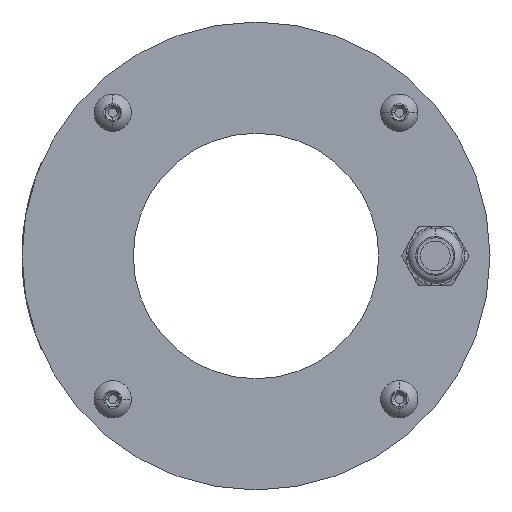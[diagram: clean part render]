
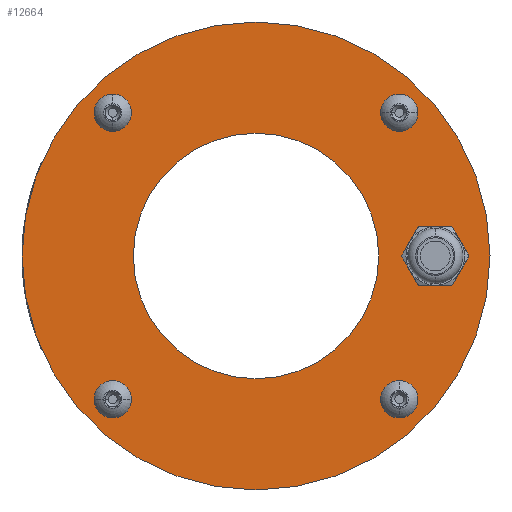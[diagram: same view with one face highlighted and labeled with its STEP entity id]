
A CAD part, front view. The second image highlights one B-rep face of the part: STEP entity #12664.
In plain terms, the highlighted planar face has unit normal (0, -1, 0).
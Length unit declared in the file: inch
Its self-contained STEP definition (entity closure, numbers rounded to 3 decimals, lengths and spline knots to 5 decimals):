
#108 = CIRCLE ( 'NONE', #13550, 1.87675 ) ;
#329 = EDGE_CURVE ( 'NONE', #3134, #19300, #6636, .T. ) ;
#556 = DIRECTION ( 'NONE',  ( 0., -1., 0. ) ) ;
#799 = CARTESIAN_POINT ( 'NONE',  ( 0., 0., 0. ) ) ;
#1069 = AXIS2_PLACEMENT_3D ( 'NONE', #799, #8281, #28210 ) ;
#1169 = FACE_BOUND ( 'NONE', #5373, .T. ) ;
#1415 = CARTESIAN_POINT ( 'NONE',  ( -1.14905, 0., 1.08409 ) ) ;
#1618 = DIRECTION ( 'NONE',  ( 0., -1., 0. ) ) ;
#1981 = AXIS2_PLACEMENT_3D ( 'NONE', #31475, #22605, #15710 ) ;
#2001 = DIRECTION ( 'NONE',  ( 0., -1., 0. ) ) ;
#2303 = DIRECTION ( 'NONE',  ( 0., 0., -1. ) ) ;
#2380 = VERTEX_POINT ( 'NONE', #14698 ) ;
#2586 = CARTESIAN_POINT ( 'NONE',  ( -1.14905, 0., -1.21401 ) ) ;
#2764 = AXIS2_PLACEMENT_3D ( 'NONE', #32721, #32285, #2303 ) ;
#2888 = DIRECTION ( 'NONE',  ( 0., 0., -1. ) ) ;
#3134 = VERTEX_POINT ( 'NONE', #1415 ) ;
#3276 = CARTESIAN_POINT ( 'NONE',  ( -1.14905, 0., -1.14905 ) ) ;
#3421 = DIRECTION ( 'NONE',  ( 0., 0., -1. ) ) ;
#3465 = ORIENTED_EDGE ( 'NONE', *, *, #18035, .F. ) ;
#4088 = EDGE_LOOP ( 'NONE', ( #30442, #11468 ) ) ;
#4548 = CIRCLE ( 'NONE', #21941, 0.06496 ) ;
#4757 = CARTESIAN_POINT ( 'NONE',  ( 0., 0., -0.98425 ) ) ;
#4899 = EDGE_CURVE ( 'NONE', #2380, #26286, #4548, .T. ) ;
#5061 = CIRCLE ( 'NONE', #24864, 0.98425 ) ;
#5373 = EDGE_LOOP ( 'NONE', ( #26405, #17789 ) ) ;
#5378 = EDGE_CURVE ( 'NONE', #17931, #29176, #12347, .T. ) ;
#5647 = CARTESIAN_POINT ( 'NONE',  ( -1.14905, 0., 1.14905 ) ) ;
#5793 = CARTESIAN_POINT ( 'NONE',  ( -1.14905, 0., -1.14905 ) ) ;
#5912 = VERTEX_POINT ( 'NONE', #8400 ) ;
#5990 = CARTESIAN_POINT ( 'NONE',  ( 1.14905, 0., 1.21401 ) ) ;
#6261 = FACE_OUTER_BOUND ( 'NONE', #30600, .T. ) ;
#6471 = EDGE_CURVE ( 'NONE', #29176, #17931, #8753, .T. ) ;
#6636 = CIRCLE ( 'NONE', #28399, 0.06496 ) ;
#6894 = AXIS2_PLACEMENT_3D ( 'NONE', #15963, #8262, #3421 ) ;
#7472 = CARTESIAN_POINT ( 'NONE',  ( 1.4375, 0., 0. ) ) ;
#7486 = FACE_BOUND ( 'NONE', #23192, .T. ) ;
#8069 = ORIENTED_EDGE ( 'NONE', *, *, #19058, .F. ) ;
#8238 = DIRECTION ( 'NONE',  ( 0., -1., 0. ) ) ;
#8262 = DIRECTION ( 'NONE',  ( 0., -1., 0. ) ) ;
#8281 = DIRECTION ( 'NONE',  ( 0., -1., 0. ) ) ;
#8317 = DIRECTION ( 'NONE',  ( 0., 0., -1. ) ) ;
#8400 = CARTESIAN_POINT ( 'NONE',  ( 1.14905, 0., 1.08409 ) ) ;
#8656 = FACE_BOUND ( 'NONE', #14544, .T. ) ;
#8753 = CIRCLE ( 'NONE', #17584, 0.06496 ) ;
#9046 = ORIENTED_EDGE ( 'NONE', *, *, #29661, .F. ) ;
#9148 = DIRECTION ( 'NONE',  ( 0., 0., -1. ) ) ;
#9191 = CIRCLE ( 'NONE', #6894, 1.87675 ) ;
#10101 = DIRECTION ( 'NONE',  ( 0., -1., 0. ) ) ;
#10211 = FACE_BOUND ( 'NONE', #26983, .T. ) ;
#10342 = CARTESIAN_POINT ( 'NONE',  ( 0., 0., 0.98425 ) ) ;
#10452 = VERTEX_POINT ( 'NONE', #4757 ) ;
#10979 = VERTEX_POINT ( 'NONE', #5990 ) ;
#11058 = DIRECTION ( 'NONE',  ( 0., 0., -1. ) ) ;
#11468 = ORIENTED_EDGE ( 'NONE', *, *, #5378, .F. ) ;
#12289 = ORIENTED_EDGE ( 'NONE', *, *, #25227, .F. ) ;
#12317 = ORIENTED_EDGE ( 'NONE', *, *, #15104, .F. ) ;
#12347 = CIRCLE ( 'NONE', #25764, 0.06496 ) ;
#12664 = ADVANCED_FACE ( 'NONE', ( #7486, #18877, #21221, #1169, #10211, #6261, #8656 ), #31247, .T. ) ;
#12988 = CARTESIAN_POINT ( 'NONE',  ( 1.14905, 0., -1.14905 ) ) ;
#13129 = CARTESIAN_POINT ( 'NONE',  ( 1.14905, 0., -1.14905 ) ) ;
#13177 = CIRCLE ( 'NONE', #29044, 0.06496 ) ;
#13229 = DIRECTION ( 'NONE',  ( 0., -1., 0. ) ) ;
#13550 = AXIS2_PLACEMENT_3D ( 'NONE', #16276, #18783, #13937 ) ;
#13937 = DIRECTION ( 'NONE',  ( 0., 0., -1. ) ) ;
#14544 = EDGE_LOOP ( 'NONE', ( #12289, #28183 ) ) ;
#14698 = CARTESIAN_POINT ( 'NONE',  ( 1.14905, 0., -1.21401 ) ) ;
#14710 = CARTESIAN_POINT ( 'NONE',  ( -1.14905, 0., -1.08409 ) ) ;
#14957 = EDGE_CURVE ( 'NONE', #5912, #10979, #28943, .T. ) ;
#15104 = EDGE_CURVE ( 'NONE', #19300, #3134, #13177, .T. ) ;
#15170 = EDGE_LOOP ( 'NONE', ( #28383, #12317 ) ) ;
#15415 = CARTESIAN_POINT ( 'NONE',  ( 0., 0., 1.87675 ) ) ;
#15685 = VERTEX_POINT ( 'NONE', #10342 ) ;
#15710 = DIRECTION ( 'NONE',  ( 0., 0., -1. ) ) ;
#15963 = CARTESIAN_POINT ( 'NONE',  ( 0., 0., 0. ) ) ;
#16137 = CIRCLE ( 'NONE', #1069, 0.98425 ) ;
#16276 = CARTESIAN_POINT ( 'NONE',  ( 0., 0., 0. ) ) ;
#16693 = CARTESIAN_POINT ( 'NONE',  ( 0., 0., 0. ) ) ;
#17199 = DIRECTION ( 'NONE',  ( 0., 0., -1. ) ) ;
#17584 = AXIS2_PLACEMENT_3D ( 'NONE', #5793, #8238, #11058 ) ;
#17671 = ORIENTED_EDGE ( 'NONE', *, *, #27234, .T. ) ;
#17789 = ORIENTED_EDGE ( 'NONE', *, *, #19688, .F. ) ;
#17921 = CIRCLE ( 'NONE', #2764, 0.16732 ) ;
#17931 = VERTEX_POINT ( 'NONE', #14710 ) ;
#18035 = EDGE_CURVE ( 'NONE', #23783, #30634, #17921, .T. ) ;
#18138 = DIRECTION ( 'NONE',  ( 0., -1., 0. ) ) ;
#18203 = ORIENTED_EDGE ( 'NONE', *, *, #23007, .T. ) ;
#18783 = DIRECTION ( 'NONE',  ( 0., -1., 0. ) ) ;
#18877 = FACE_BOUND ( 'NONE', #4088, .T. ) ;
#18906 = CIRCLE ( 'NONE', #22582, 0.06496 ) ;
#19058 = EDGE_CURVE ( 'NONE', #30634, #23783, #31178, .T. ) ;
#19178 = DIRECTION ( 'NONE',  ( 0., 0., -1. ) ) ;
#19300 = VERTEX_POINT ( 'NONE', #28243 ) ;
#19688 = EDGE_CURVE ( 'NONE', #10979, #5912, #18906, .T. ) ;
#20317 = VERTEX_POINT ( 'NONE', #15415 ) ;
#20789 = DIRECTION ( 'NONE',  ( 0., 0., -1. ) ) ;
#21221 = FACE_BOUND ( 'NONE', #15170, .T. ) ;
#21576 = ORIENTED_EDGE ( 'NONE', *, *, #4899, .F. ) ;
#21941 = AXIS2_PLACEMENT_3D ( 'NONE', #12988, #556, #27846 ) ;
#22011 = AXIS2_PLACEMENT_3D ( 'NONE', #13129, #13229, #20789 ) ;
#22186 = CARTESIAN_POINT ( 'NONE',  ( 1.14905, 0., -1.08409 ) ) ;
#22424 = DIRECTION ( 'NONE',  ( 0., -1., 0. ) ) ;
#22582 = AXIS2_PLACEMENT_3D ( 'NONE', #28433, #29304, #9148 ) ;
#22605 = DIRECTION ( 'NONE',  ( 0., -1., 0. ) ) ;
#22775 = AXIS2_PLACEMENT_3D ( 'NONE', #7472, #22424, #25050 ) ;
#23007 = EDGE_CURVE ( 'NONE', #20317, #25029, #9191, .T. ) ;
#23192 = EDGE_LOOP ( 'NONE', ( #21576, #9046 ) ) ;
#23751 = CARTESIAN_POINT ( 'NONE',  ( 1.4375, 0., 0.16732 ) ) ;
#23783 = VERTEX_POINT ( 'NONE', #23751 ) ;
#24756 = CARTESIAN_POINT ( 'NONE',  ( -1.14905, 0., 1.14905 ) ) ;
#24864 = AXIS2_PLACEMENT_3D ( 'NONE', #16693, #1618, #19178 ) ;
#24890 = CARTESIAN_POINT ( 'NONE',  ( 0., 0., -1.87675 ) ) ;
#25029 = VERTEX_POINT ( 'NONE', #24890 ) ;
#25050 = DIRECTION ( 'NONE',  ( 0., 0., -1. ) ) ;
#25227 = EDGE_CURVE ( 'NONE', #10452, #15685, #16137, .T. ) ;
#25531 = CIRCLE ( 'NONE', #22011, 0.06496 ) ;
#25764 = AXIS2_PLACEMENT_3D ( 'NONE', #3276, #18138, #8317 ) ;
#26286 = VERTEX_POINT ( 'NONE', #22186 ) ;
#26405 = ORIENTED_EDGE ( 'NONE', *, *, #14957, .F. ) ;
#26983 = EDGE_LOOP ( 'NONE', ( #8069, #3465 ) ) ;
#27152 = CARTESIAN_POINT ( 'NONE',  ( 1.4375, 0., -0.16732 ) ) ;
#27234 = EDGE_CURVE ( 'NONE', #25029, #20317, #108, .T. ) ;
#27846 = DIRECTION ( 'NONE',  ( 0., 0., -1. ) ) ;
#28183 = ORIENTED_EDGE ( 'NONE', *, *, #32711, .F. ) ;
#28210 = DIRECTION ( 'NONE',  ( 0., 0., -1. ) ) ;
#28243 = CARTESIAN_POINT ( 'NONE',  ( -1.14905, 0., 1.21401 ) ) ;
#28383 = ORIENTED_EDGE ( 'NONE', *, *, #329, .F. ) ;
#28399 = AXIS2_PLACEMENT_3D ( 'NONE', #5647, #31124, #29027 ) ;
#28433 = CARTESIAN_POINT ( 'NONE',  ( 1.14905, 0., 1.14905 ) ) ;
#28943 = CIRCLE ( 'NONE', #31355, 0.06496 ) ;
#29027 = DIRECTION ( 'NONE',  ( 0., 0., -1. ) ) ;
#29044 = AXIS2_PLACEMENT_3D ( 'NONE', #24756, #2001, #17199 ) ;
#29176 = VERTEX_POINT ( 'NONE', #2586 ) ;
#29304 = DIRECTION ( 'NONE',  ( 0., -1., 0. ) ) ;
#29661 = EDGE_CURVE ( 'NONE', #26286, #2380, #25531, .T. ) ;
#30404 = CARTESIAN_POINT ( 'NONE',  ( 1.14905, 0., 1.14905 ) ) ;
#30442 = ORIENTED_EDGE ( 'NONE', *, *, #6471, .F. ) ;
#30600 = EDGE_LOOP ( 'NONE', ( #17671, #18203 ) ) ;
#30634 = VERTEX_POINT ( 'NONE', #27152 ) ;
#31124 = DIRECTION ( 'NONE',  ( 0., -1., 0. ) ) ;
#31178 = CIRCLE ( 'NONE', #22775, 0.16732 ) ;
#31247 = PLANE ( 'NONE',  #1981 ) ;
#31355 = AXIS2_PLACEMENT_3D ( 'NONE', #30404, #10101, #2888 ) ;
#31475 = CARTESIAN_POINT ( 'NONE',  ( 0.98425, 0., 0. ) ) ;
#32285 = DIRECTION ( 'NONE',  ( 0., -1., 0. ) ) ;
#32711 = EDGE_CURVE ( 'NONE', #15685, #10452, #5061, .T. ) ;
#32721 = CARTESIAN_POINT ( 'NONE',  ( 1.4375, 0., 0. ) ) ;
